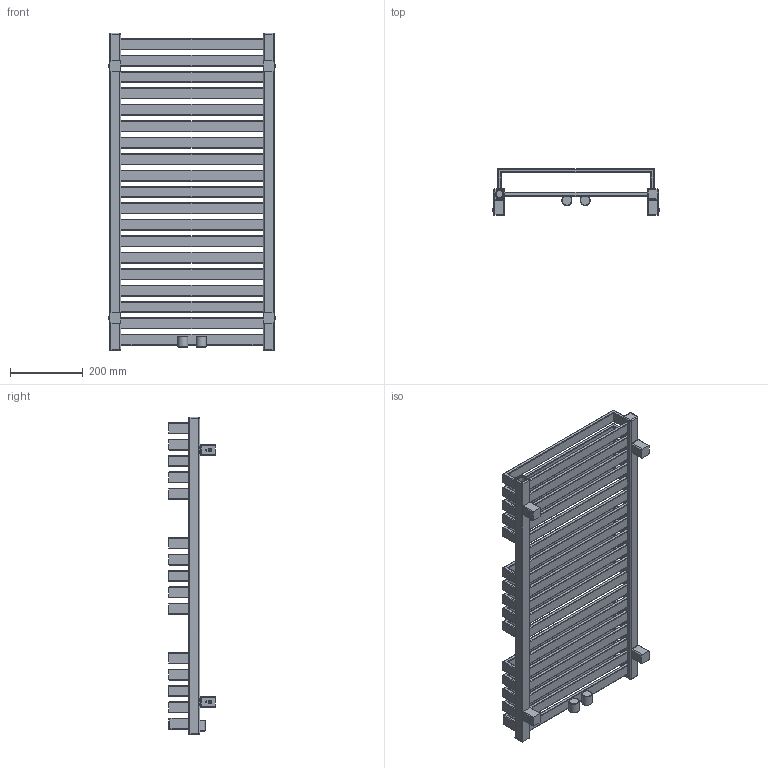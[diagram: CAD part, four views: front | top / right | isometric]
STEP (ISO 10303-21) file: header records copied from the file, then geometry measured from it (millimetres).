
FILE_DESCRIPTION((''),'2;1');
FILE_NAME('Z:\R\G\P\RGP093 - Grzejnik Quadrus Bold 2012\Work\Inventor\Marketing\Modele AutoCAD\QBA-870-450 Z8.stp','2012-07-02T07:50:22',('KurKa'),(''),'Autodesk Inventor 2012','Autodesk Inventor 2012','');
FILE_SCHEMA(('AUTOMOTIVE_DESIGN { 1 0 10303 214 1 1 1 1 }'));
Length unit declared in the file: millimetre
Products named in the file (3): QBA-870-450 Z8; MMT42_marketing
Assembly tree (5 placements, depth 2):
  QBA-870-450 Z8
    QBA-870-450 Z8
    MMT42_marketing  x4
Bounding box: 456 x 127 x 870 mm (x, y, z)
Volume: 6246386 mm3; surface area: 1397675.1 mm2
Topology: 5 solids, 5 shells, 714 faces, 1848 edges, 1158 vertices
Faces by surface type: cylinder 338, plane 316, cone 30, sphere 16, torus 10, bspline 4
Full cylindrical faces by diameter (mm): 4.509 x4, 12 x4, 18.631 x4, 28 x2
Entity records: 18151 total; most frequent: CARTESIAN_POINT 3451, DIRECTION 3154, ORIENTED_EDGE 2978, EDGE_CURVE 1489, AXIS2_PLACEMENT_3D 1094, VECTOR 966, LINE 966, VERTEX_POINT 939
